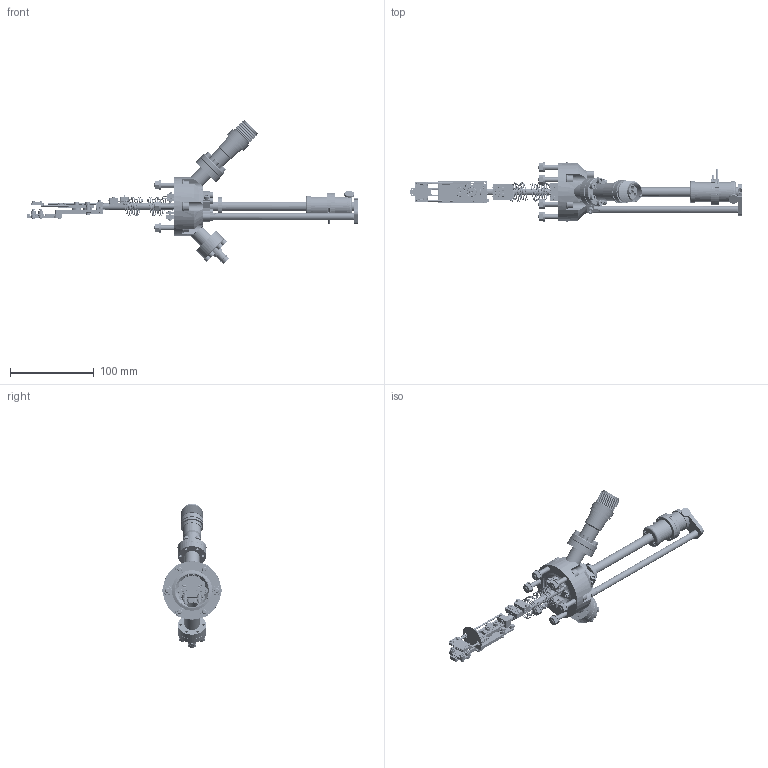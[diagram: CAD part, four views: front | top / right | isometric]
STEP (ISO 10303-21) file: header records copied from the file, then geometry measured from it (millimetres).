
FILE_DESCRIPTION(('Confidential','CAx-IF Rec.Pracs.--- Model Styling and Organization---1.2---2011-12-15','CAx-IF Rec.Pracs.--- Geometric and Assembly Validation Properties ---3.1---2011-10-19'),'2;1');
FILE_NAME('W:\KONSTRUKTION\PRODUCTS\HS\HSAS\HSASOM\HSASOM40\HSASOM40(EBMD)\HSASOM40(EBMD)_Rev_F.stp','2026-05-20T11:12:43+00:00',('none'),('Ferrovac AG'),'CATIA Version 5 Release 21 SP 6 (IN-10)','CATIA V5 STEP AP214 Edition 3','PROPERTY OF FERROVAC AG');
FILE_SCHEMA(('AUTOMOTIVE_DESIGN { 1 0 10303 214 3 1 1 1 }'));
Products named in the file (1): HSASOM40(EBMD)_AllCATPart
Bounding box: 396.16 x 70.7 x 172.02 mm (x, y, z)
Volume: 214497.5 mm3; surface area: 139675.5 mm2
Topology: 2 solids, 52 shells, 6343 faces, 15954 edges, 9988 vertices
Faces by surface type: cylinder 2349, plane 2309, cone 816, torus 629, bspline 224, extrusion 16
Entity records: 210277 total; most frequent: CARTESIAN_POINT 71328, ORIENTED_EDGE 31688, DIRECTION 20174, EDGE_CURVE 15844, AXIS2_PLACEMENT_3D 10283, VERTEX_POINT 9988, EDGE_LOOP 7155, ADVANCED_FACE 6343
